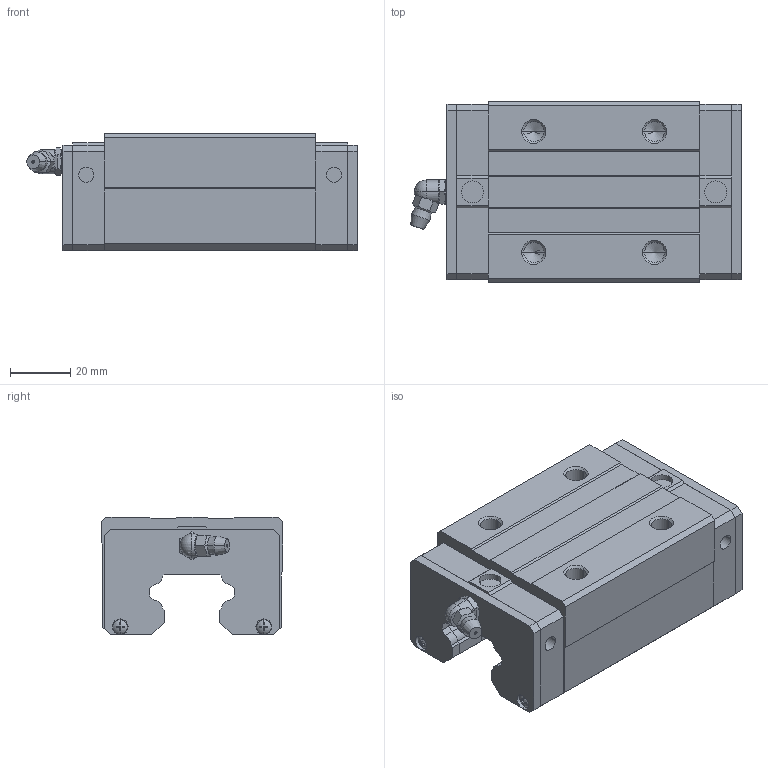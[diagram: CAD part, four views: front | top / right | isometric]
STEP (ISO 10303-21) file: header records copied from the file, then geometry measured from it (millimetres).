
FILE_DESCRIPTION(('starvars output'),'2;1');
FILE_NAME('cv20190617061136000042131.stp','06:11:36 2019/06/17',( 'Thomas Industrial Network Germany GmbH'),( 'Thomas Industrial Network Germany GmbH'),'unknown preprocess','ACIS' ,'unknown authorization');
FILE_SCHEMA(('CONFIG_CONTROL_DESIGN {UNKNOWN IMPLEMENTATION LEVEL}'));
Length unit declared in the file: millimetre
Products named in the file (10): PRODUCT_ID_1; PRODUCT_ID_2; PRODUCT_ID_3; PRODUCT_ID_4; PRODUCT_ID_5; PRODUCT_ID_6; PRODUCT_ID_7; PRODUCT_ID_8; PRODUCT_ID_9; PRODUCT_ID_10
Bounding box: 109.4 x 60 x 39 mm (x, y, z)
Volume: 171257.2 mm3; surface area: 41904 mm2
Topology: 10 solids, 10 shells, 387 faces, 978 edges, 620 vertices
Faces by surface type: plane 240, cylinder 71, cone 64, sphere 12
Entity records: 11111 total; most frequent: ORIENTED_EDGE 1932, CARTESIAN_POINT 1813, DIRECTION 1513, EDGE_CURVE 966, VECTOR 621, LINE 621, VERTEX_POINT 620, AXIS2_PLACEMENT_3D 446
